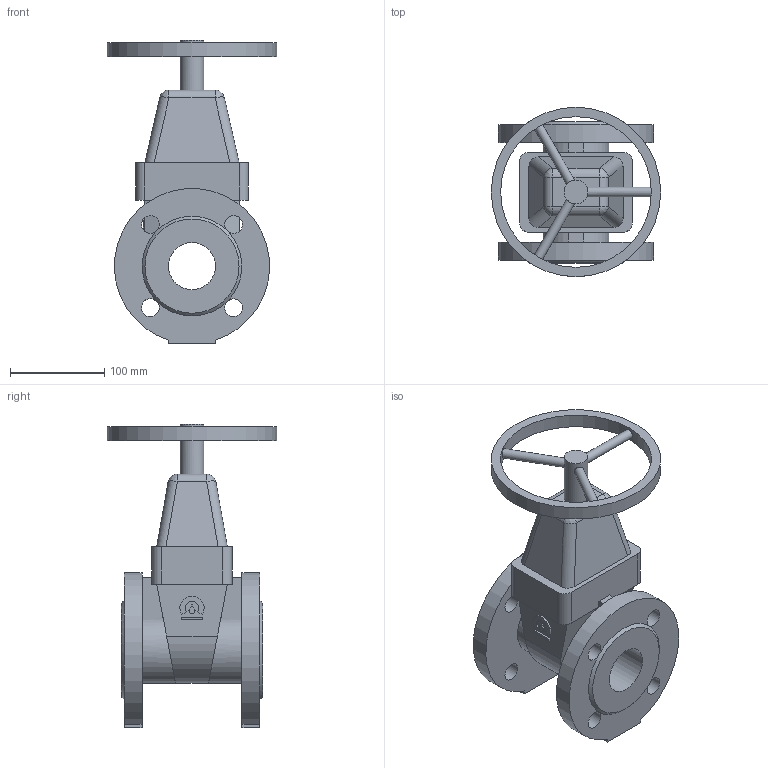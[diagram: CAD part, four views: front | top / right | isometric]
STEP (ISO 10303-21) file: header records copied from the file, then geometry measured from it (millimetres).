
FILE_DESCRIPTION(('STEP AP203'), '1');
FILE_NAME('Çàäâèæêà 47GV DN50 PN10_PN16_L150_W180 ñ ìàõîâèêîì', '', ('UNSPECIFIED'), ('UNSPECIFIED'), 'ASCON STEP Converter 1.6', 'ASCON Math Kernel', '');
FILE_SCHEMA(('CONFIG_CONTROL_DESIGN'));
Length unit declared in the file: millimetre
Bounding box: 180 x 180 x 322.5 mm (x, y, z)
Volume: 2223197.4 mm3; surface area: 242446.3 mm2
Topology: 1 solids, 1 shells, 94 faces, 249 edges, 156 vertices
Faces by surface type: plane 49, cylinder 39, bspline 4, cone 2
Full cylindrical faces by diameter (mm): 10 x3, 19 x8, 25 x1, 50 x1, 160 x1, 180 x1
Entity records: 4496 total; most frequent: CARTESIAN_POINT 1507, DIRECTION 444, ORIENTED_EDGE 424, EDGE_CURVE 212, AXIS2_PLACEMENT_3D 159, VERTEX_POINT 148, EDGE_LOOP 146, LINE 126
